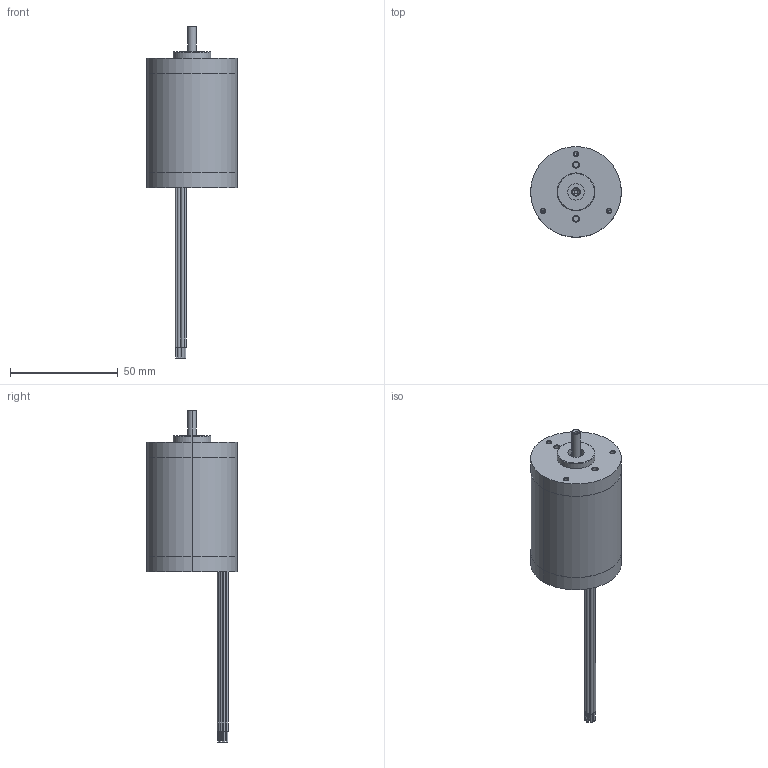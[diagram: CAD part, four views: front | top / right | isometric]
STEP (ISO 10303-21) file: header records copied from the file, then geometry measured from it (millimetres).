
FILE_DESCRIPTION (( 'STEP AP214' ), '1' );
FILE_NAME ('BLWR172S.STEP', '2010-06-25T16:28:20', ( 'Tim Raines' ), ( 'Anaheim Automation' ), 'SwSTEP 2.0', 'SolidWorks 2010', '' );
FILE_SCHEMA (( 'AUTOMOTIVE_DESIGN' ));
Length unit declared in the file: inch
Products named in the file (1): BLWR172S
Bounding box: 42.04 x 42.04 x 153.72 mm (x, y, z)
Volume: 84574.9 mm3; surface area: 14338.9 mm2
Topology: 1 solids, 1 shells, 187 faces, 426 edges, 271 vertices
Faces by surface type: plane 83, cylinder 74, cone 24, torus 6
Entity records: 7773 total; most frequent: CARTESIAN_POINT 1011, DIRECTION 946, ORIENTED_EDGE 840, EDGE_CURVE 420, AXIS2_PLACEMENT_3D 376, VERTEX_POINT 271, EDGE_LOOP 223, LINE 194
